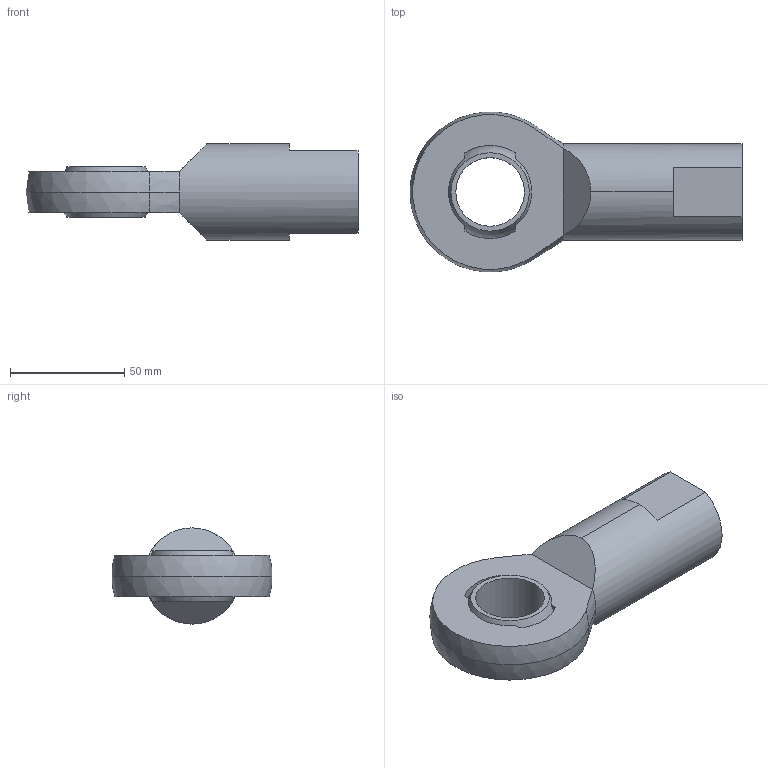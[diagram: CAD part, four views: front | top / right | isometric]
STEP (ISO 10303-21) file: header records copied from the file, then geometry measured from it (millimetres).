
FILE_DESCRIPTION (( 'STEP AP203' ), '1' );
FILE_NAME ('65880.W0130.step', '2014-02-06T18:36:02', ( 'User' ), ( '' ), 'SwSTEP 2.0', 'SolidWorks 2009', '' );
FILE_SCHEMA (( 'CONFIG_CONTROL_DESIGN' ));
Length unit declared in the file: millimetre
Products named in the file (3): 65880.W0130; Part1_65880.W0130; Part2_65880.W0130
Assembly tree (2 placements, depth 2):
  65880.W0130
    Part2_65880.W0130
    Part1_65880.W0130
Bounding box: 145 x 69.78 x 42 mm (x, y, z)
Volume: 115324.6 mm3; surface area: 33129 mm2
Topology: 2 solids, 2 shells, 45 faces, 106 edges, 65 vertices
Faces by surface type: plane 20, cylinder 10, sphere 8, cone 7
Entity records: 1604 total; most frequent: DIRECTION 249, CARTESIAN_POINT 249, ORIENTED_EDGE 204, AXIS2_PLACEMENT_3D 105, EDGE_CURVE 102, VERTEX_POINT 65, CIRCLE 55, EDGE_LOOP 53
